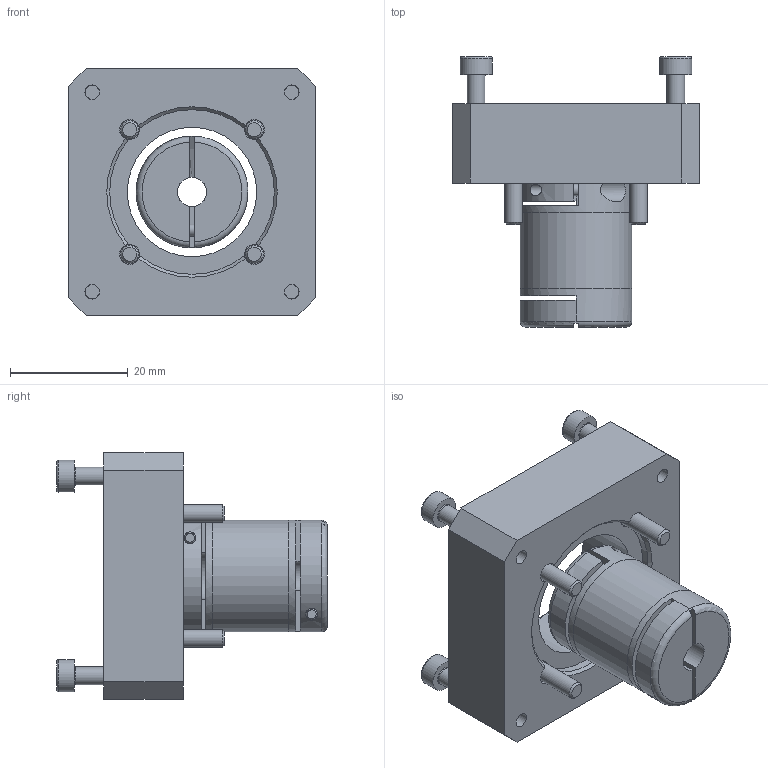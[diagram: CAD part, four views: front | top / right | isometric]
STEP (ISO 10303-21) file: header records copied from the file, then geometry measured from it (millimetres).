
FILE_DESCRIPTION(/* description */ (''),/* implementation_level */ '2;1');
FILE_NAME(/* name */ 'C:\ホームページ用データ\\X2\307E305A30533053306B\X0\\J08559.stp',/* time_stamp */ '2015-04-07T13:15:36+09:00',/* author */ ('jp4te01'),/* organization */ (''),/* preprocessor_version */ 'ST-DEVELOPER v15.2',/* originating_system */ 'Autodesk Inventor 2014',/* authorisation */ '');
FILE_SCHEMA (('AUTOMOTIVE_DESIGN { 1 0 10303 214 3 1 1 }'));
Length unit declared in the file: millimetre
Products named in the file (5): J09328; XGT2-19C-5x8; コピー版 JIS B 1176 - M3 x 15; コピー版 JIS B 1176 - M3 x 10; J08559
Bounding box: 42 x 46 x 42 mm (x, y, z)
Volume: 23765.6 mm3; surface area: 13056.4 mm2
Topology: 12 solids, 12 shells, 274 faces, 658 edges, 428 vertices
Faces by surface type: plane 166, cylinder 65, cone 25, torus 18
Full cylindrical faces by diameter (mm): 2 x4, 2.459 x4, 2.5 x2, 3 x8, 3.4 x4, 3.8 x2, 4.1 x2, 5 x1, 5.5 x8, 6 x4, 8 x1, 8.8 x1, 19 x3, 22 x1
Entity records: 5696 total; most frequent: CARTESIAN_POINT 1297, DIRECTION 870, ORIENTED_EDGE 786, EDGE_CURVE 393, AXIS2_PLACEMENT_3D 330, VERTEX_POINT 285, EDGE_LOOP 268, LINE 210
